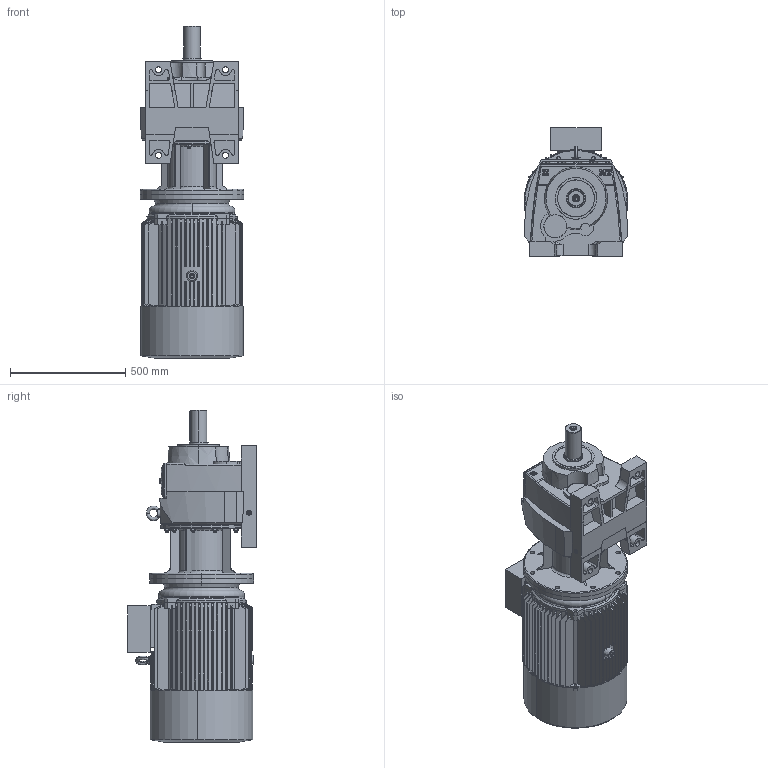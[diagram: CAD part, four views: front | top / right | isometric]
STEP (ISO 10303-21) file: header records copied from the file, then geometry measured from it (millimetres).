
FILE_DESCRIPTION (( 'STEP AP203' ), '1' );
FILE_NAME ('MV672-MV673-M3-225M-4.STEP', '2019-07-24T12:11:04', ( '' ), ( '' ), 'SwSTEP 2.0', 'SolidWorks 2012', '' );
FILE_SCHEMA (( 'CONFIG_CONTROL_DESIGN' ));
Length unit declared in the file: millimetre
Products named in the file (14): MV672-MV673-M3-225M-4; M3-225M-4p-FF-B5; Y2-225-4-¯ª­-È®+_-++ñ; Eyebolts GB_GB_FASTENER_SCREWS_FRS M16-N_1; Plain parallel keys_GB_CONNECTING_PIECE_KEYS_CSK 18X125; 225-4-¯+²ª¦+¦_-++ñ; 225-4-ª+-_-++ñ; 225-4-¯+²_-++ñ; ML6A_Varsayìlan; Y2-225+¦i-_-++ñ; MN_67_3_0_A-B22_B5_ML6A_0_0_0_0_0_0_0_0_0_0_0_0_M1; Y2-225MB5+À+¿_-++ñ; 63225B5_Varsayìlan; M673_Varsayìlan
Assembly tree (13 placements, depth 4):
  MV672-MV673-M3-225M-4
    MN_67_3_0_A-B22_B5_ML6A_0_0_0_0_0_0_0_0_0_0_0_0_M1
      M673_Varsayìlan
      63225B5_Varsayìlan
      ML6A_Varsayìlan
    M3-225M-4p-FF-B5
      Y2-225MB5+À+¿_-++ñ
      Y2-225+¦i-_-++ñ
      225-4-¯+²ª¦+¦_-++ñ
        225-4-¯+²_-++ñ
        Plain parallel keys_GB_CONNECTING_PIECE_KEYS_CSK 18X125
      225-4-ª+-_-++ñ
      Y2-225-4-¯ª­-È®+_-++ñ
      Eyebolts GB_GB_FASTENER_SCREWS_FRS M16-N_1
Bounding box: 450 x 557.3 x 1437.5 mm (x, y, z)
Volume: 73434811.8 mm3; surface area: 6058492.2 mm2
Topology: 12 solids, 12 shells, 1944 faces, 4910 edges, 3098 vertices
Faces by surface type: plane 775, cylinder 496, cone 494, bspline 160, torus 19
Entity records: 79888 total; most frequent: CARTESIAN_POINT 34045, ORIENTED_EDGE 9790, DIRECTION 8426, EDGE_CURVE 4895, AXIS2_PLACEMENT_3D 3156, VERTEX_POINT 3098, EDGE_LOOP 2161, LINE 2114
